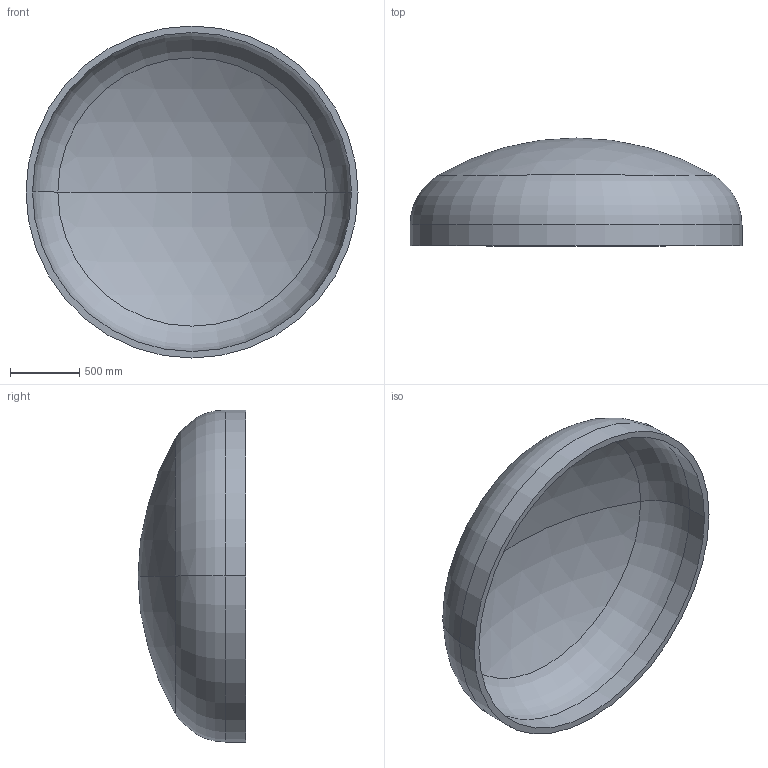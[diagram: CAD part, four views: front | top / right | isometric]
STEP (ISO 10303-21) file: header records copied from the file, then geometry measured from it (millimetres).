
FILE_DESCRIPTION (( 'STEP AP203' ), '1' );
FILE_NAME ('DIN 28013 Korbbogenform_-_Boden DIN 28013 - 2400 x 150 - I - s=47.step', '2016-07-01T15:25:04', ( '' ), ( '' ), 'SwSTEP 2.0', 'SolidWorks 2013', '' );
FILE_SCHEMA (( 'CONFIG_CONTROL_DESIGN' ));
Length unit declared in the file: millimetre
Products named in the file (1): DIN 28013 Korbbogenform_-_Boden DIN 28013 - 2400 x 150 - I - s=47
Bounding box: 2400 x 779.31 x 2400 mm (x, y, z)
Volume: 339158930.5 mm3; surface area: 14784348.7 mm2
Topology: 1 solids, 1 shells, 13 faces, 24 edges, 14 vertices
Faces by surface type: torus 4, cylinder 4, sphere 4, plane 1
Entity records: 407 total; most frequent: DIRECTION 72, CARTESIAN_POINT 52, ORIENTED_EDGE 48, AXIS2_PLACEMENT_3D 34, EDGE_CURVE 24, CIRCLE 20, VERTEX_POINT 14, EDGE_LOOP 14
